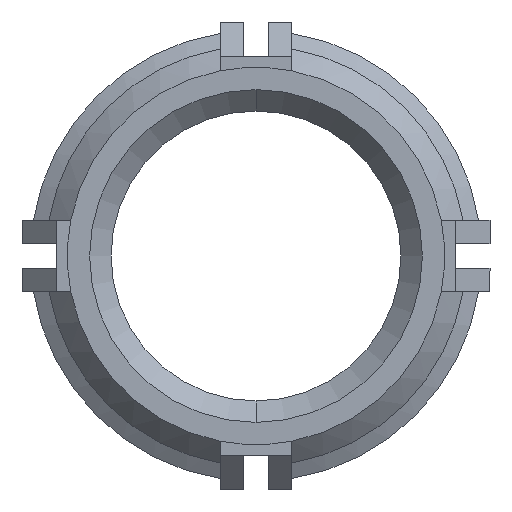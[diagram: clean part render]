
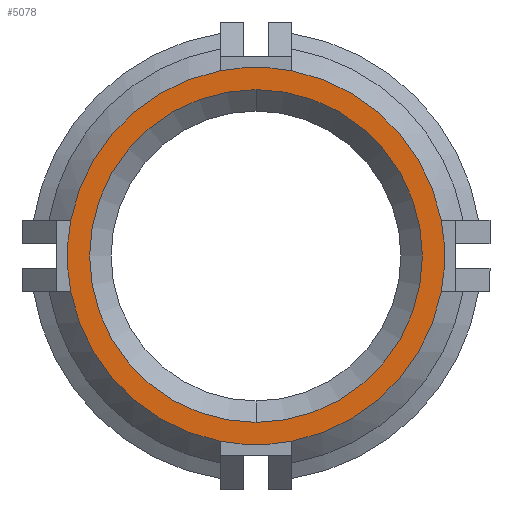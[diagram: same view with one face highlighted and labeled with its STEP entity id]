
A CAD part, front view. The second image highlights one B-rep face of the part: STEP entity #5078.
In plain terms, the highlighted planar face has unit normal (0, -1, 0).
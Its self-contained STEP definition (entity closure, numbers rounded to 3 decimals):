
#105 = DIRECTION ( 'NONE',  ( 0., 0., 1. ) ) ;
#140 = ORIENTED_EDGE ( 'NONE', *, *, #4318, .T. ) ;
#197 = VERTEX_POINT ( 'NONE', #3658 ) ;
#302 = CIRCLE ( 'NONE', #4938, 9.299 ) ;
#340 = EDGE_CURVE ( 'NONE', #197, #4123, #4282, .T. ) ;
#342 = CARTESIAN_POINT ( 'NONE',  ( -9.132, -20.574, 1.75 ) ) ;
#346 = DIRECTION ( 'NONE',  ( 1., 0., 0. ) ) ;
#415 = EDGE_CURVE ( 'NONE', #4123, #197, #4429, .T. ) ;
#458 = ORIENTED_EDGE ( 'NONE', *, *, #5092, .T. ) ;
#540 = AXIS2_PLACEMENT_3D ( 'NONE', #5296, #1032, #3348 ) ;
#596 = CARTESIAN_POINT ( 'NONE',  ( 0., -20.574, 0. ) ) ;
#708 = CARTESIAN_POINT ( 'NONE',  ( 0., -20.574, 8.203 ) ) ;
#720 = VERTEX_POINT ( 'NONE', #763 ) ;
#763 = CARTESIAN_POINT ( 'NONE',  ( 9.132, -20.574, 1.75 ) ) ;
#880 = DIRECTION ( 'NONE',  ( 0., -1., 0. ) ) ;
#897 = EDGE_CURVE ( 'NONE', #1778, #5846, #5218, .T. ) ;
#919 = AXIS2_PLACEMENT_3D ( 'NONE', #1971, #2929, #3860 ) ;
#974 = CIRCLE ( 'NONE', #1603, 9.299 ) ;
#987 = DIRECTION ( 'NONE',  ( 0., 0., 1. ) ) ;
#1032 = DIRECTION ( 'NONE',  ( 0., 1., 0. ) ) ;
#1187 = ORIENTED_EDGE ( 'NONE', *, *, #415, .T. ) ;
#1325 = CARTESIAN_POINT ( 'NONE',  ( 9.132, -20.574, -1.75 ) ) ;
#1408 = CARTESIAN_POINT ( 'NONE',  ( 0., -20.574, 0. ) ) ;
#1438 = ORIENTED_EDGE ( 'NONE', *, *, #2797, .T. ) ;
#1501 = AXIS2_PLACEMENT_3D ( 'NONE', #5827, #2604, #5428 ) ;
#1603 = AXIS2_PLACEMENT_3D ( 'NONE', #4109, #880, #1791 ) ;
#1707 = CIRCLE ( 'NONE', #919, 9.299 ) ;
#1778 = VERTEX_POINT ( 'NONE', #5606 ) ;
#1791 = DIRECTION ( 'NONE',  ( 0., 0., 1. ) ) ;
#1840 = DIRECTION ( 'NONE',  ( 0., -1., 0. ) ) ;
#1971 = CARTESIAN_POINT ( 'NONE',  ( 0., -20.574, 0. ) ) ;
#2022 = ORIENTED_EDGE ( 'NONE', *, *, #4531, .T. ) ;
#2134 = FACE_BOUND ( 'NONE', #3593, .T. ) ;
#2182 = DIRECTION ( 'NONE',  ( 0., 0., 1. ) ) ;
#2274 = AXIS2_PLACEMENT_3D ( 'NONE', #1408, #1840, #5098 ) ;
#2295 = CIRCLE ( 'NONE', #3515, 9.299 ) ;
#2303 = CARTESIAN_POINT ( 'NONE',  ( 0., -20.574, 0. ) ) ;
#2552 = CARTESIAN_POINT ( 'NONE',  ( -1.75, -20.574, 9.132 ) ) ;
#2604 = DIRECTION ( 'NONE',  ( 0., 1., 0. ) ) ;
#2797 = EDGE_CURVE ( 'NONE', #3315, #720, #302, .T. ) ;
#2929 = DIRECTION ( 'NONE',  ( 0., -1., 0. ) ) ;
#3109 = ORIENTED_EDGE ( 'NONE', *, *, #340, .T. ) ;
#3158 = EDGE_CURVE ( 'NONE', #5846, #5337, #4922, .T. ) ;
#3271 = CARTESIAN_POINT ( 'NONE',  ( 0., -20.574, 0. ) ) ;
#3315 = VERTEX_POINT ( 'NONE', #1325 ) ;
#3330 = AXIS2_PLACEMENT_3D ( 'NONE', #5406, #5874, #2182 ) ;
#3348 = DIRECTION ( 'NONE',  ( 0., 0., 1. ) ) ;
#3360 = EDGE_CURVE ( 'NONE', #5093, #3315, #2295, .T. ) ;
#3458 = CARTESIAN_POINT ( 'NONE',  ( 0., -20.574, 0. ) ) ;
#3515 = AXIS2_PLACEMENT_3D ( 'NONE', #3271, #4210, #987 ) ;
#3540 = ORIENTED_EDGE ( 'NONE', *, *, #897, .T. ) ;
#3593 = EDGE_LOOP ( 'NONE', ( #3109, #1187 ) ) ;
#3649 = DIRECTION ( 'NONE',  ( 0., -1., 0. ) ) ;
#3658 = CARTESIAN_POINT ( 'NONE',  ( 0., -20.574, -8.203 ) ) ;
#3677 = DIRECTION ( 'NONE',  ( 0., -1., 0. ) ) ;
#3711 = ORIENTED_EDGE ( 'NONE', *, *, #3783, .T. ) ;
#3783 = EDGE_CURVE ( 'NONE', #5337, #5233, #4411, .T. ) ;
#3846 = ORIENTED_EDGE ( 'NONE', *, *, #3158, .T. ) ;
#3860 = DIRECTION ( 'NONE',  ( 0., 0., 1. ) ) ;
#3889 = DIRECTION ( 'NONE',  ( 0., 1., 0. ) ) ;
#3915 = CARTESIAN_POINT ( 'NONE',  ( 1.75, -20.574, -9.132 ) ) ;
#3948 = CARTESIAN_POINT ( 'NONE',  ( -9.132, -20.574, -1.75 ) ) ;
#4034 = VERTEX_POINT ( 'NONE', #5313 ) ;
#4109 = CARTESIAN_POINT ( 'NONE',  ( 0., -20.574, 0. ) ) ;
#4123 = VERTEX_POINT ( 'NONE', #708 ) ;
#4142 = EDGE_LOOP ( 'NONE', ( #3711, #140, #458, #5747, #1438, #2022, #3540, #3846 ) ) ;
#4152 = DIRECTION ( 'NONE',  ( 0., 0., -1. ) ) ;
#4210 = DIRECTION ( 'NONE',  ( 0., -1., 0. ) ) ;
#4282 = CIRCLE ( 'NONE', #1501, 8.203 ) ;
#4305 = DIRECTION ( 'NONE',  ( 0., -1., 0. ) ) ;
#4318 = EDGE_CURVE ( 'NONE', #5233, #4034, #974, .T. ) ;
#4329 = DIRECTION ( 'NONE',  ( -1., 0., 0. ) ) ;
#4363 = AXIS2_PLACEMENT_3D ( 'NONE', #3458, #3889, #105 ) ;
#4411 = CIRCLE ( 'NONE', #2274, 9.299 ) ;
#4429 = CIRCLE ( 'NONE', #540, 8.203 ) ;
#4531 = EDGE_CURVE ( 'NONE', #720, #1778, #1707, .T. ) ;
#4922 = CIRCLE ( 'NONE', #3330, 9.299 ) ;
#4938 = AXIS2_PLACEMENT_3D ( 'NONE', #5945, #3649, #4152 ) ;
#5078 = ADVANCED_FACE ( 'NONE', ( #2134, #5918 ), #5785, .F. ) ;
#5092 = EDGE_CURVE ( 'NONE', #4034, #5093, #5715, .T. ) ;
#5093 = VERTEX_POINT ( 'NONE', #3915 ) ;
#5098 = DIRECTION ( 'NONE',  ( 0., 0., 1. ) ) ;
#5218 = CIRCLE ( 'NONE', #5781, 9.299 ) ;
#5233 = VERTEX_POINT ( 'NONE', #3948 ) ;
#5296 = CARTESIAN_POINT ( 'NONE',  ( 0., -20.574, 0. ) ) ;
#5313 = CARTESIAN_POINT ( 'NONE',  ( -1.75, -20.574, -9.132 ) ) ;
#5337 = VERTEX_POINT ( 'NONE', #342 ) ;
#5406 = CARTESIAN_POINT ( 'NONE',  ( 0., -20.574, 0. ) ) ;
#5428 = DIRECTION ( 'NONE',  ( 0., 0., 1. ) ) ;
#5461 = AXIS2_PLACEMENT_3D ( 'NONE', #596, #4305, #4329 ) ;
#5606 = CARTESIAN_POINT ( 'NONE',  ( 1.75, -20.574, 9.132 ) ) ;
#5715 = CIRCLE ( 'NONE', #5461, 9.299 ) ;
#5747 = ORIENTED_EDGE ( 'NONE', *, *, #3360, .T. ) ;
#5781 = AXIS2_PLACEMENT_3D ( 'NONE', #2303, #3677, #346 ) ;
#5785 = PLANE ( 'NONE',  #4363 ) ;
#5827 = CARTESIAN_POINT ( 'NONE',  ( 0., -20.574, 0. ) ) ;
#5846 = VERTEX_POINT ( 'NONE', #2552 ) ;
#5874 = DIRECTION ( 'NONE',  ( 0., -1., 0. ) ) ;
#5918 = FACE_OUTER_BOUND ( 'NONE', #4142, .T. ) ;
#5945 = CARTESIAN_POINT ( 'NONE',  ( 0., -20.574, 0. ) ) ;
